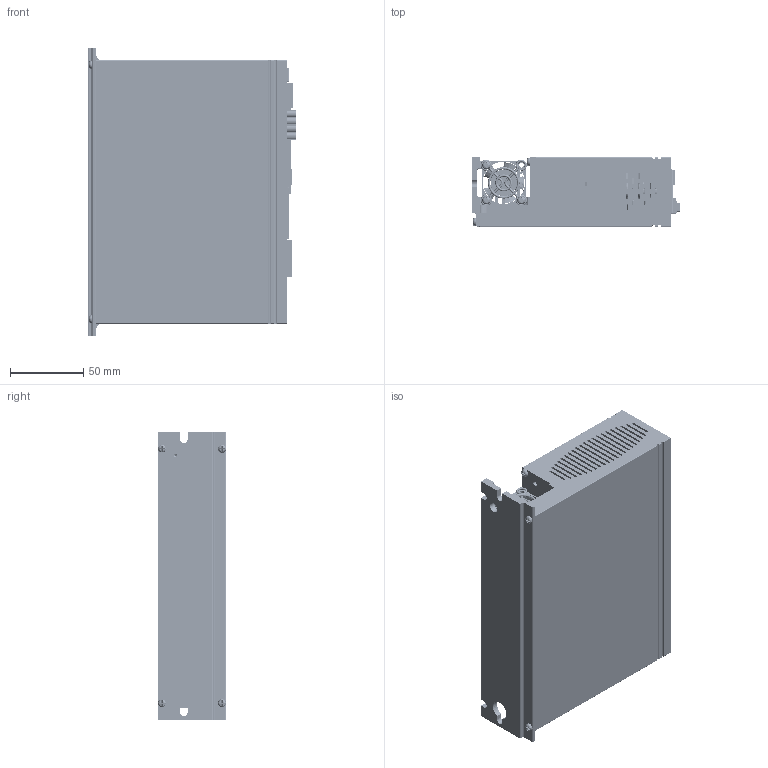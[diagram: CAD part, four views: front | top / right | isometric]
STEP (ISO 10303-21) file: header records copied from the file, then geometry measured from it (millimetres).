
FILE_DESCRIPTION((''),'2;1');
FILE_NAME('SW5_ISD00_ASM','2020-07-29T08:38:41',('Matteo Maccalli'),(''),'CREO PARAMETRIC BY PTC INC, 2019344','CREO PARAMETRIC BY PTC INC, 2019344','');
FILE_SCHEMA(('AUTOMOTIVE_DESIGN { 1 0 10303 214 1 1 1 1 }'));
Products named in the file (205): ISD00_DISSIPATORE-03; AD_00883-03_ISD00; SCATOLA_SW5_D-04; ACC_2E9X9E5; FAN-HOUSE-30X30X10-PROMOCO_FAN-; FAN-30X30X10-PROMOCO_FAN-KDE050; GRIGLIA_30X30; ACC_2E9X19; ISD00_EARTH_FIX-01; AD_01053_ISD00_BLK; BOARD-185; CPP_4X13X9_P10_1_2; CY204_1_ASM; CPP_4X13X9_P10; CY203_1_ASM; CY202_1_ASM; 79202-X02LF; JMP500_ASM; CE_35X30_P10; CE202_ASM; BOARD-38953; USER_LIBRARY-TSSOP-16-1_1_2; IC402_ASM; USER_LIBRARY-ARRAY-1206-4-58410; USER_LIBRARY-ARRAY-1206-4-68119; USER_LIBRARY-ARRAY-1206-4-70352; USER_LIBRARY-ARRAY-1206-4-76785; USER_LIBRARY-ARRAY-1206-4-58388_ASM; RN403_ASM; RN402_ASM; RN401_ASM; RN105_ASM; RN104_ASM; USER_LIBRARY-RES0603-1_1_2; R405_ASM; USER_LIBRARY-TSSOP-16-1; IC401_ASM; IC100_ASM; SW3DPS-0603_SMD_CAPACITOR_1_2; C401_ASM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
Assembly tree (235 placements, depth 8):
  SW5_ISD00_ASM
    ISD00_DISSIPATORE-03
    AD_00883-03_ISD00
    SCATOLA_SW5_D-04
    ACC_2E9X9E5  x4
    FAN-HOUSE-30X30X10-PROMOCO_FAN-
    FAN-30X30X10-PROMOCO_FAN-KDE050
    GRIGLIA_30X30
    ACC_2E9X19  x3
    ISD00_EARTH_FIX-01
    AD_01053_ISD00_BLK
    ASM0001_ASM
      PCB_ASM
        BOARD-185
        CY204_1_ASM
          CPP_4X13X9_P10_1_2
        CY203_1_ASM
          CPP_4X13X9_P10
        CY202_1_ASM
          CPP_4X13X9_P10
        JMP500_ASM
          79202-X02LF  x2
        CE202_ASM
          CE_35X30_P10
        VIS400-38854_ASM
          ISD00VIS-02_ASM
            BOARD-38953
            IC402_ASM
              USER_LIBRARY-TSSOP-16-1_1_2
            RN403_ASM
              USER_LIBRARY-ARRAY-1206-4-58388_ASM
                USER_LIBRARY-ARRAY-1206-4-58410
                USER_LIBRARY-ARRAY-1206-4-68119
                USER_LIBRARY-ARRAY-1206-4-70352
                USER_LIBRARY-ARRAY-1206-4-76785
            RN402_ASM
              USER_LIBRARY-ARRAY-1206-4-58388_ASM
                USER_LIBRARY-ARRAY-1206-4-58410
                USER_LIBRARY-ARRAY-1206-4-68119
                USER_LIBRARY-ARRAY-1206-4-70352
                USER_LIBRARY-ARRAY-1206-4-76785
            RN401_ASM
              USER_LIBRARY-ARRAY-1206-4-58388_ASM
                USER_LIBRARY-ARRAY-1206-4-58410
                USER_LIBRARY-ARRAY-1206-4-68119
                USER_LIBRARY-ARRAY-1206-4-70352
                USER_LIBRARY-ARRAY-1206-4-76785
            RN105_ASM
              USER_LIBRARY-ARRAY-1206-4-58388_ASM
                USER_LIBRARY-ARRAY-1206-4-58410
                USER_LIBRARY-ARRAY-1206-4-68119
                USER_LIBRARY-ARRAY-1206-4-70352
                USER_LIBRARY-ARRAY-1206-4-76785
            RN104_ASM
              USER_LIBRARY-ARRAY-1206-4-58388_ASM
                USER_LIBRARY-ARRAY-1206-4-58410
                USER_LIBRARY-ARRAY-1206-4-68119
                USER_LIBRARY-ARRAY-1206-4-70352
                USER_LIBRARY-ARRAY-1206-4-76785
            R405_ASM
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Bounding box: 142.78 x 47 x 196.6 mm (x, y, z)
Volume: 469123.9 mm3; surface area: 367606.6 mm2
Topology: 164 solids, 171 shells, 16607 faces, 46012 edges, 30005 vertices
Faces by surface type: plane 10920, cylinder 3839, extrusion 896, cone 517, bspline 212, sphere 114, torus 109
Entity records: 628180 total; most frequent: CARTESIAN_POINT 113266, ORIENTED_EDGE 75222, DIRECTION 66390, PRESENTATION_STYLE_ASSIGNMENT 42130, EDGE_CURVE 37625, STYLED_ITEM 34351, CURVE_STYLE 33870, VECTOR 27720
